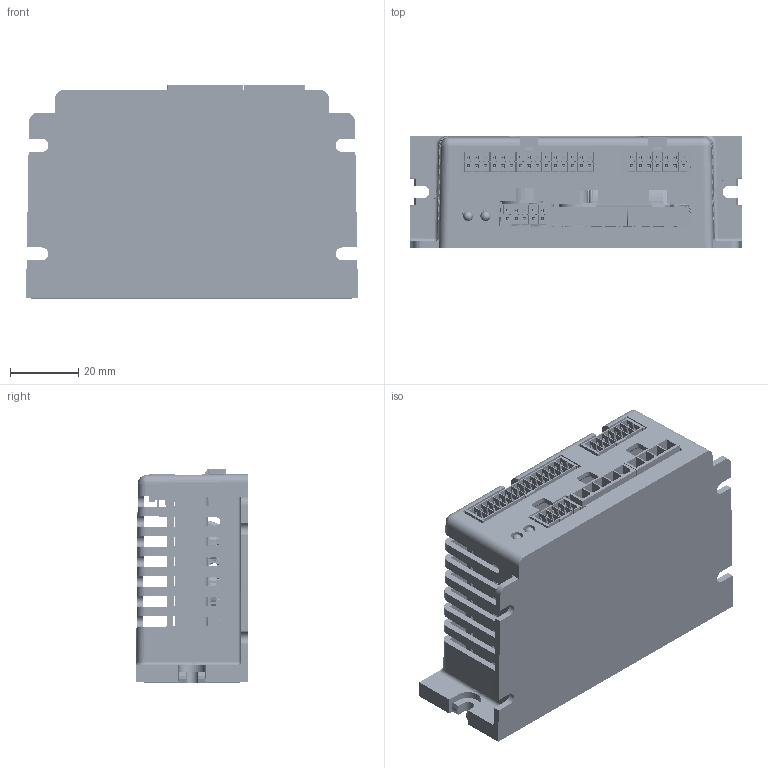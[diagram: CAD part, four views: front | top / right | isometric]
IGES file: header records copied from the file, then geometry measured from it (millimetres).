
Start section: SolidWorks IGES file using analytic representation for surfaces
Global section: file name: K:\003 Projects-Deco Controlled\00\00-00680-000\00-00680-000.IGS; native system: SolidWorks 2005 by SolidWorks Corporation; preprocessor: SolidWorks 2005 by SolidWorks Corporation; author: croy; date: 050511.093742; units: inch
Bounding box: 97.16 x 32.76 x 62.62 mm (x, y, z)
Surface area: 88200.5 mm2 (no closed solid volume)
Topology: 0 solids, 0 shells, 16060 faces, 268775 edges, 344244 vertices
Faces by surface type: bspline 11917, revolution 4143
